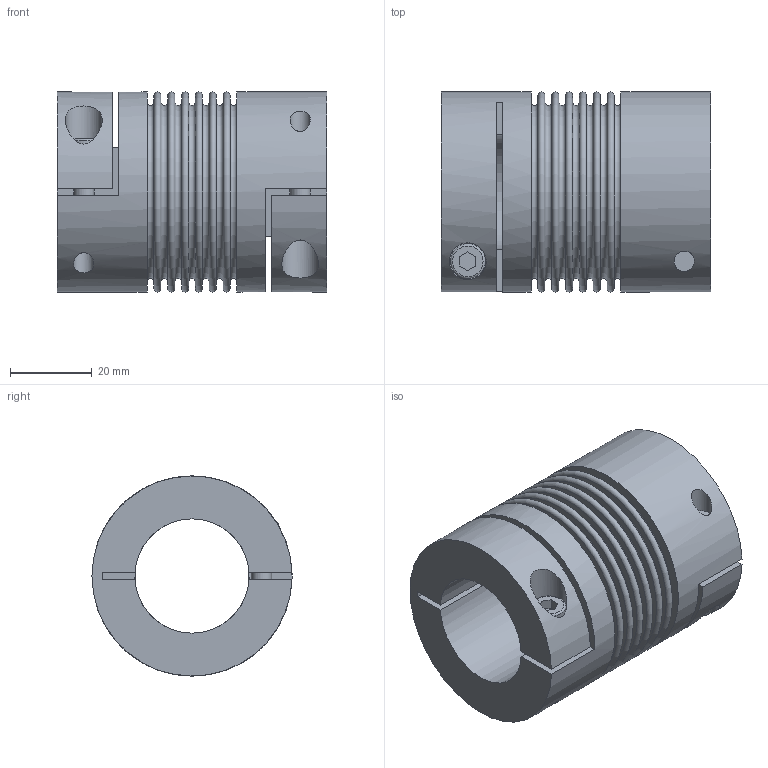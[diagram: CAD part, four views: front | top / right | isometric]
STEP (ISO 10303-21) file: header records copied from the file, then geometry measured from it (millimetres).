
FILE_DESCRIPTION(/* description */ ('STEP AP214'),/* implementation_level */ '2;1');
FILE_NAME(/* name */ 'C:\Diequa Files\DieQua Coupling\Website Step Files\BC.15.66.#.#.stp',/* time_stamp */ '2018-10-25T16:19:32-05:00',/* author */ ('DiequaCAD'),/* organization */ (''),/* preprocessor_version */ 'ST-DEVELOPER v17.2',/* originating_system */ 'Autodesk Inventor 2019',/* authorisation */ ' ');
FILE_SCHEMA (('AUTOMOTIVE_DESIGN { 1 0 10303 214 3 1 1 }'));
Length unit declared in the file: millimetre
Products named in the file (1): BC2.15.66.#.#
Bounding box: 66 x 49 x 49 mm (x, y, z)
Volume: 60503.8 mm3; surface area: 29687.2 mm2
Topology: 1 solids, 1 shells, 82 faces, 201 edges, 143 vertices
Faces by surface type: plane 52, torus 15, cylinder 15
Full cylindrical faces by diameter (mm): 5 x4, 8.5 x2, 9 x2, 28 x2, 40 x1, 49 x2
Entity records: 2705 total; most frequent: CARTESIAN_POINT 578, DIRECTION 465, ORIENTED_EDGE 402, EDGE_CURVE 201, AXIS2_PLACEMENT_3D 188, VERTEX_POINT 143, EDGE_LOOP 110, CIRCLE 105
